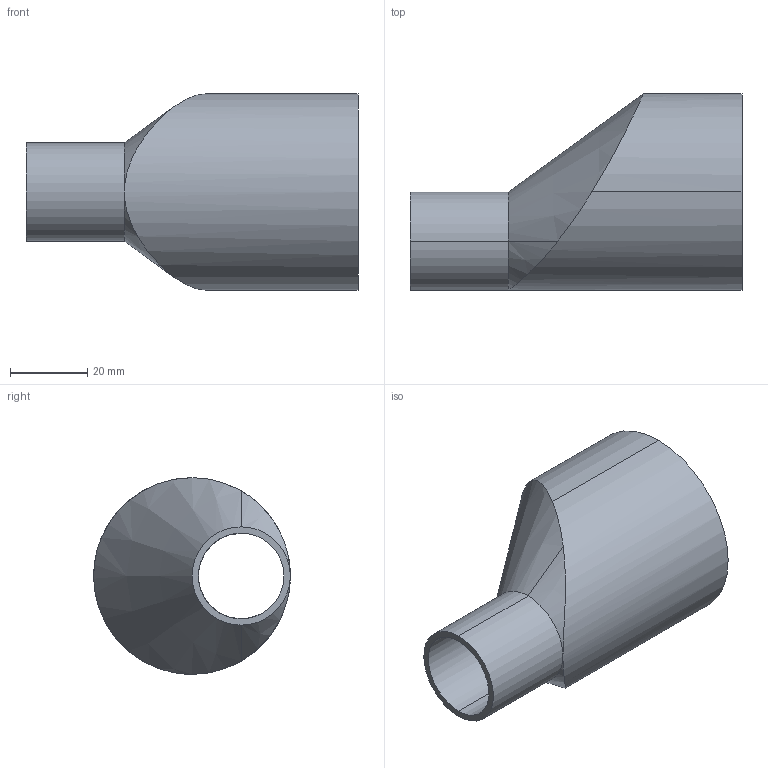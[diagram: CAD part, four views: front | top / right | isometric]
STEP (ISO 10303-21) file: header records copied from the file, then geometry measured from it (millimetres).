
FILE_DESCRIPTION (( 'STEP AP214' ), '1' );
FILE_NAME ('TE32SWW6L2.0x1.0-...STEP', '2016-06-01T06:59:31', ( 'eran' ), ( '' ), 'SwSTEP 2.0', 'SolidWorks 2016', '' );
FILE_SCHEMA (( 'AUTOMOTIVE_DESIGN' ));
Length unit declared in the file: millimetre
Products named in the file (1): TE32SWW6L2.0x1.0-..
Bounding box: 85.72 x 50.8 x 50.8 mm (x, y, z)
Volume: 47869.7 mm3; surface area: 19919.8 mm2
Topology: 1 solids, 1 shells, 16 faces, 36 edges, 22 vertices
Faces by surface type: cylinder 8, cone 5, plane 3
Entity records: 677 total; most frequent: CARTESIAN_POINT 284, DIRECTION 77, ORIENTED_EDGE 72, EDGE_CURVE 36, AXIS2_PLACEMENT_3D 33, VERTEX_POINT 22, EDGE_LOOP 18, CIRCLE 16
